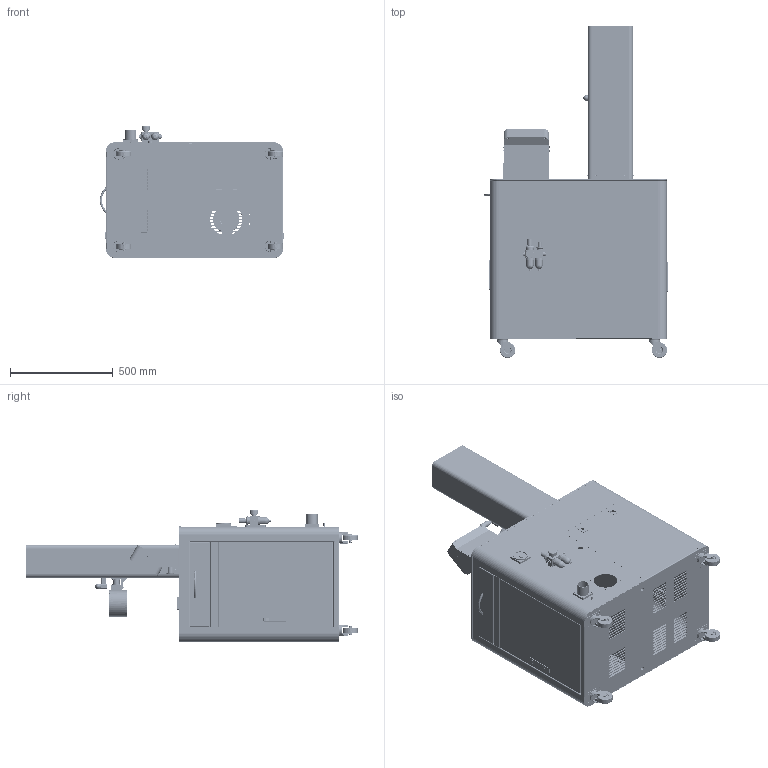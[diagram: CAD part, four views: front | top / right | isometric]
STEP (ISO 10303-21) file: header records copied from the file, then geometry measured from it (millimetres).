
FILE_DESCRIPTION((''),'2;1');
FILE_NAME('TEM-2200F_ASM','2020-09-10T13:19:25',('zhengj'),(''),'CREO PARAMETRIC BY PTC INC, 2018100','CREO PARAMETRIC BY PTC INC, 2018100','');
FILE_SCHEMA(('CONFIG_CONTROL_DESIGN'));
Products named in the file (117): TEM-2200F-01-013_1_1; TEM-2200F-01-07_AF1_1_1; TEM-2200F-01-09_AF0_11_1; TEM-2200F-01-08_AF0_ASM_1_ASM_1_ASM; TEM-2200F-01-11_1_1; TEM-2200F-01-13_1_1; TEM-2200F-01-14_1_1; TEM-2200F-01-15_1_1; TEM-2200F-01-16_1_1; TEM-2200F-01-17_1_1; TEM-2200F-01-18_1_1; TEM-2200F-01-10_ASM_1_ASM_1_ASM; TEM-2200F-01-20_AF0_1_1; TEM-2200F-01-19_1_1; TEM-2200F-01-22_AF0_6_1; TEM-2200F-01-21_1_1; TEM-2200F-01-23_1_1; TEM-2200F-01-24_2_1; TEM-2200F-01-25_1_1; TEM-2200F-01-27_1_1; TEM-2200F-01-28_1_1; TEM-2200F-01-29_1_1; TEM-2200F-01-26_AF2_ASM_4_ASM_1_ASM; TEM-2200F-01-26_AF3_ASM_4_ASM_1_ASM; TEM-2200F-01-33_1_1; TEM-2200F-01-35_1_1; TEM-2200F-01-36_1_1; TEM-2200F-01-37_AF0_1_1; TEM-2200F-01-34_ASM_2_ASM_1_ASM; TEM-2200F-01-02_4_1; 202000_1_1; TEM-2200F-01-16_AF0_1_1; DG_AF0_1_1; DG_1_1; TEM-2200F-01-03_1_1; TEM-2200F-01-04_1_1; TEM-2200F-01-06_1_1; TEM-2200F-01-02_ASM_2_ASM_1_ASM; TEM-2200F-01-31_1_1; TEM-2200F-01-32_1_1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
Assembly tree (216 placements, depth 7):
  TEM-2200F_ASM
    TEM-2200F_ASM_ASM_1_ASM
      TEM-2200F_ASM_58_ASM_1_ASM
        TEM-2200F-01_AF0_ASM_15_ASM_1_ASM
          TEM-2200F-01-013_1_1
          TEM-2200F-01-07_AF1_1_1
          TEM-2200F-01-08_AF0_ASM_1_ASM_1_ASM
            TEM-2200F-01-09_AF0_11_1
          TEM-2200F-01-10_ASM_1_ASM_1_ASM
            TEM-2200F-01-11_1_1
            TEM-2200F-01-13_1_1
            TEM-2200F-01-14_1_1
            TEM-2200F-01-15_1_1
            TEM-2200F-01-16_1_1
            TEM-2200F-01-17_1_1
            TEM-2200F-01-18_1_1
          TEM-2200F-01-20_AF0_1_1
          TEM-2200F-01-19_1_1
          TEM-2200F-01-22_AF0_6_1
          TEM-2200F-01-21_1_1
          TEM-2200F-01-23_1_1  x4
          TEM-2200F-01-24_2_1  x2
          TEM-2200F-01-25_1_1  x2
          TEM-2200F-01-26_AF2_ASM_4_ASM_1_ASM
            TEM-2200F-01-27_1_1
            TEM-2200F-01-28_1_1
            TEM-2200F-01-29_1_1
          TEM-2200F-01-26_AF3_ASM_4_ASM_1_ASM
            TEM-2200F-01-27_1_1
            TEM-2200F-01-28_1_1
            TEM-2200F-01-29_1_1
          TEM-2200F-01-33_1_1  x4
          TEM-2200F-01-34_ASM_2_ASM_1_ASM
            TEM-2200F-01-35_1_1
            TEM-2200F-01-36_1_1
            TEM-2200F-01-37_AF0_1_1
          TEM-2200F-01-02_4_1
          202000_1_1  x2
          TEM-2200F-01-16_AF0_1_1
          DG_AF0_1_1
          DG_1_1
          TEM-2200F-01-02_ASM_2_ASM_1_ASM
            TEM-2200F-01-03_1_1
            TEM-2200F-01-04_1_1
            TEM-2200F-01-06_1_1
          TEM-2200F-01-30_ASM_1_ASM_1_ASM
            TEM-2200F-01-31_1_1
            TEM-2200F-01-32_1_1  x2
          TEM-2200F-01-01-01_1_1  x2
          M16-BXG_1_1  x2
          TEM-2200F-01-01-02_AF0_1_1
          M16-BXG_AF0_1_1
          TEM-2200F-01-01-02_AF1_1_1
          M16-BXG_AF1_1_1
          SCC050100-BXG_2_1  x14
        TEM-03_ASM_6_ASM_1_ASM
          TEM-03-01_ASM_4_ASM_1_ASM
            TEM-03-01-01_3_1
            TEM-03-01-02_4_1
            TEM-03-01-03_2_1
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Bounding box: 896.48 x 1613.95 x 641 mm (x, y, z)
Volume: 16927035.4 mm3; surface area: 11828519.3 mm2
Topology: 191 solids, 301 shells, 10804 faces, 29197 edges, 18733 vertices
Faces by surface type: cylinder 4461, plane 3513, bspline 1326, cone 1215, torus 223, sphere 64, extrusion 2
Entity records: 225511 total; most frequent: CARTESIAN_POINT 104522, DIRECTION 25023, ORIENTED_EDGE 24370, EDGE_CURVE 12390, AXIS2_PLACEMENT_3D 9215, VERTEX_POINT 8073, VECTOR 6593, LINE 6591
